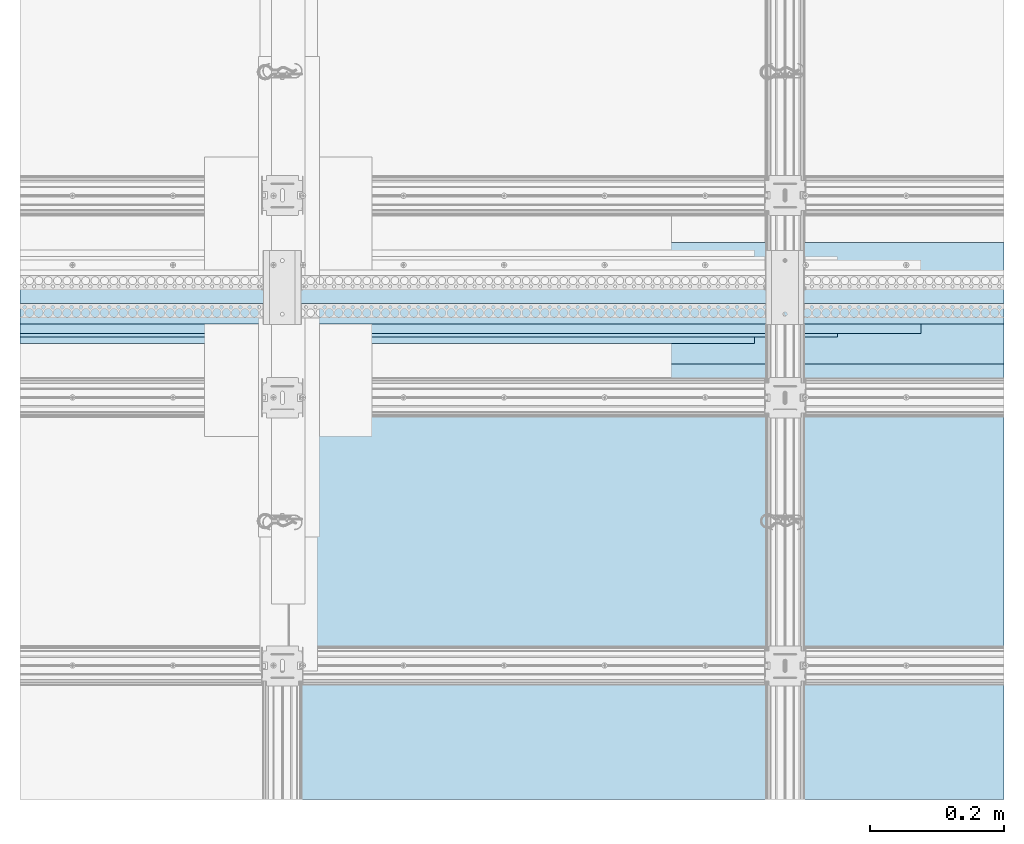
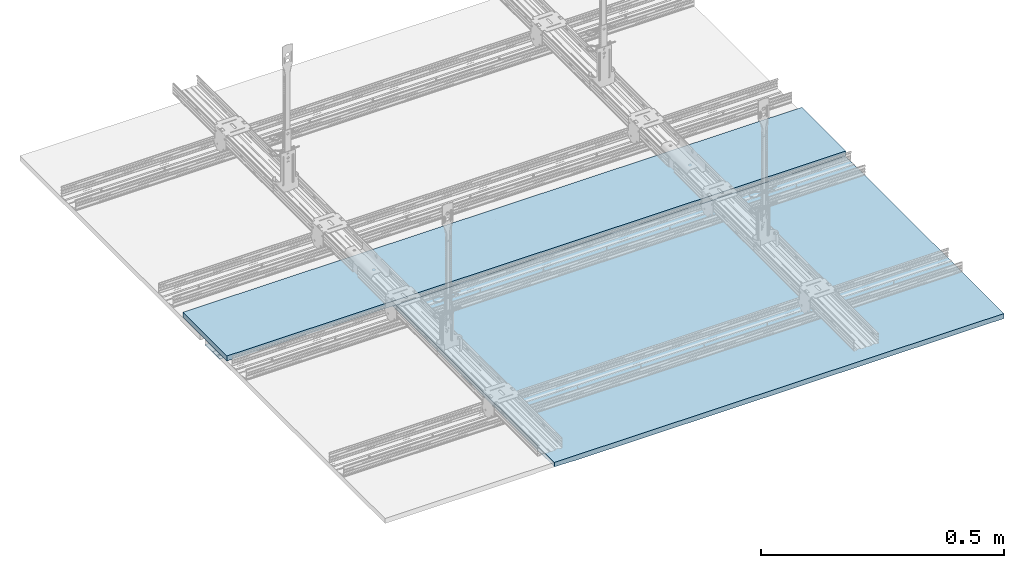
# One storey, part 1 of 56: 6 slabs.
"""IFC2X3 building model written with IfcOpenShell, lengths in millimetres."""

import ifcopenshell
import ifcopenshell.guid

model = None  # the IFC model being written
_history = None  # IfcOwnerHistory: only IFC2X3 demands one
_inside = {}  # id of a spatial element -> (the spatial element, [elements in it])
_under = {}  # id of a project, library or spatial element -> (it, [spatial elements below it])
_declared = {}  # id of a project -> (the project, [libraries it declares])
_typed = {}  # id of a type object -> (the type object, [elements of that type])
_made_of = {}  # id of a material, layer set ... -> (it, [elements and type objects made of it])


def new_model(schema):
    """Start an empty IFC model of exactly this schema.

    Asked for "IFC4X3", IfcOpenShell would pick the latest addendum, in which some entities
    have other attributes; the version numbers below select the first issue.
    IFC2X3 requires an IfcOwnerHistory on every rooted entity: one is made here for all.
    """
    global model, _history
    if schema == "IFC4X3":
        model = ifcopenshell.file(schema_version=(4, 3, 0, 0))
    else:
        model = ifcopenshell.file(schema=schema)
    _inside.clear()
    _under.clear()
    _declared.clear()
    _typed.clear()
    _made_of.clear()
    _history = None
    if model.schema == "IFC2X3":
        org = make("IfcOrganization", Name="unknown")
        user = make(
            "IfcPersonAndOrganization",
            ThePerson=make("IfcPerson", FamilyName="unknown"),
            TheOrganization=org,
        )
        app = make(
            "IfcApplication",
            ApplicationDeveloper=org,
            Version="unknown",
            ApplicationFullName="unknown",
            ApplicationIdentifier="unknown",
        )
        _history = make(
            "IfcOwnerHistory",
            OwningUser=user,
            OwningApplication=app,
            ChangeAction="ADDED",
            CreationDate=0,
        )
    return model


def make(cls, **values):
    """One entity of the class cls with the attributes given. An attribute that is None is left unset."""
    return model.create_entity(
        cls, **{name: value for name, value in values.items() if value is not None}
    )


def entity(cls, *values):
    """Any entity or typed value of the class cls, its attributes in the order of the schema. None: left unset."""
    e = model.create_entity(cls)
    for i, value in enumerate(values):
        if value is not None:
            e[i] = value
    return e


def rooted(cls, **values):
    """An entity with a GlobalId (a new one), such as an element, a storey or a relation."""
    return make(cls, GlobalId=ifcopenshell.guid.new(), OwnerHistory=_history, **values)


def si_unit(unit_type, name, prefix=None):
    """IfcSIUnit, for example si_unit("LENGTHUNIT", "METRE", prefix="MILLI")."""
    return make("IfcSIUnit", UnitType=unit_type, Prefix=prefix, Name=name)


def converted_unit(unit_type, name, factor, base, dimensions=None, offset=None):
    """IfcConversionBasedUnit, such as the inch: factor (a typed value) times the base unit."""
    return make(
        "IfcConversionBasedUnit"
        if offset is None
        else "IfcConversionBasedUnitWithOffset",
        ConversionOffset=offset,
        Dimensions=None
        if dimensions is None
        else entity("IfcDimensionalExponents", *dimensions),
        UnitType=unit_type,
        Name=name,
        ConversionFactor=make(
            "IfcMeasureWithUnit", ValueComponent=factor, UnitComponent=base
        ),
    )


def assignment(units):
    """IfcUnitAssignment: the units of a project."""
    return None if units is None else make("IfcUnitAssignment", Units=units)


def point(xyz):
    """IfcCartesianPoint."""
    return None if xyz is None else make("IfcCartesianPoint", Coordinates=xyz)


def direction(xyz):
    """IfcDirection."""
    return None if xyz is None else make("IfcDirection", DirectionRatios=xyz)


def frame(location, z_axis=None, x_axis=None):
    """IfcAxis2Placement3D, a coordinate frame: its origin and axes. An axis left out is left unset."""
    return make(
        "IfcAxis2Placement3D",
        Location=point(location),
        Axis=direction(z_axis),
        RefDirection=direction(x_axis),
    )


def origin():
    """The frame at (0, 0, 0) with its axes left unset."""
    return frame((0.0, 0.0, 0.0))


def origin_with_axes():
    """The frame at (0, 0, 0) with the z axis (0, 0, 1) and the x axis (1, 0, 0) written out."""
    return frame((0.0, 0.0, 0.0), z_axis=(0.0, 0.0, 1.0), x_axis=(1.0, 0.0, 0.0))


def place(relative_to, where):
    """IfcLocalPlacement: puts the frame where relative to a parent placement (None: the world)."""
    return make(
        "IfcLocalPlacement", PlacementRelTo=relative_to, RelativePlacement=where
    )


def context(
    kind, dimensions, precision=None, world=None, true_north=None, identifier=None
):
    """IfcGeometricRepresentationContext, for example the 3D "Model" context."""
    return make(
        "IfcGeometricRepresentationContext",
        ContextIdentifier=identifier,
        ContextType=kind,
        CoordinateSpaceDimension=dimensions,
        Precision=precision,
        WorldCoordinateSystem=world,
        TrueNorth=true_north,
    )


def project(units=None, contexts=None):
    """IfcProject with its units and contexts."""
    return rooted(
        "IfcProject",
        Name="project",
        RepresentationContexts=contexts,
        UnitsInContext=assignment(units),
    )


def spatial(cls, under=None, at=None, **own):
    """A site, building, storey or space (cls), placed at a placement, below another one or the project."""
    s = rooted(cls, ObjectPlacement=at, **own)
    if under is not None:
        _under.setdefault(under.id(), (under, []))[1].append(s)
    return s


def faces_of(points, faces, orient=None, outer=None):
    """IfcFace entities. A face is a list of loops; a loop is a list of indices into points, from 0.

    orient and outer hold one flag for each loop. By default every Orientation is true, the
    first loop of a face is its IfcFaceOuterBound and the others are IfcFaceBound.
    """
    made = []
    for i, loops in enumerate(faces):
        bounds = []
        for j, loop in enumerate(loops):
            is_outer = j == 0 if outer is None else outer[i][j]
            bounds.append(
                make(
                    "IfcFaceOuterBound" if is_outer else "IfcFaceBound",
                    Bound=make("IfcPolyLoop", Polygon=[points[k] for k in loop]),
                    Orientation=True if orient is None else orient[i][j],
                )
            )
        made.append(make("IfcFace", Bounds=bounds))
    return made


def faceted_brep(points, faces, orient=None, outer=None, voids=None):
    """IfcFacetedBrep: a solid bounded by flat faces; with voids (closed shells), ...WithVoids."""
    shared = [point(p) for p in points]
    hull = make("IfcClosedShell", CfsFaces=faces_of(shared, faces, orient, outer))
    if voids is None:
        return make("IfcFacetedBrep", Outer=hull)
    return make(
        "IfcFacetedBrepWithVoids",
        Outer=hull,
        Voids=[
            make(cls, CfsFaces=faces_of(shared, fs, o, b)) for cls, fs, o, b in voids
        ],
    )


def shape(context_of_items, identifier, shape_type, items):
    """IfcShapeRepresentation: the items that make up one representation, for example the "Body"."""
    return make(
        "IfcShapeRepresentation",
        ContextOfItems=context_of_items,
        RepresentationIdentifier=identifier,
        RepresentationType=shape_type,
        Items=items,
    )


def made_of(thing, what):
    """Note that an element or type object is made of a material, layer set ...; save() writes the relation."""
    if what is not None:
        _made_of.setdefault(what.id(), (what, []))[1].append(thing)
    return thing


def element(
    cls,
    number,
    at=None,
    inside=None,
    cuts=None,
    type_object=None,
    material=None,
    context=None,
    identifier="Body",
    shape_type=None,
    held_by="IfcProductDefinitionShape",
    body=None,
    shapes=None,
    **own,
):
    """One element of the class cls, such as IfcWall. Its Tag is "e" and its number.

    at: its placement. inside: the storey or other place that contains it. cuts: it is an
    opening in that element (IfcRelVoidsElement). A single representation is given by context,
    identifier, shape_type and body (its items); several are given by shapes. held_by: the class
    of the entity that holds the representations. save() writes the other relations.
    """
    e = rooted(cls, Tag="e%d" % number, ObjectPlacement=at, **own)
    if body is not None:
        shapes = [shape(context, identifier, shape_type, body)]
    if shapes is not None:
        e.Representation = make(held_by, Representations=shapes)
    if inside is not None:
        _inside.setdefault(inside.id(), (inside, []))[1].append(e)
    if cuts is not None:
        rooted(
            "IfcRelVoidsElement", RelatingBuildingElement=cuts, RelatedOpeningElement=e
        )
    if type_object is not None:
        _typed.setdefault(type_object.id(), (type_object, []))[1].append(e)
    return made_of(e, material)


def aggregate(whole, parts):
    """IfcRelAggregates: a whole, such as a stair, and the parts it consists of."""
    return rooted("IfcRelAggregates", RelatingObject=whole, RelatedObjects=parts)


def save(model, path):
    """Write the relations noted so far, then the file.

    IfcRelAggregates (storeys below a building ...), IfcRelContainedInSpatialStructure (elements
    in a storey), IfcRelDefinesByType, IfcRelAssociatesMaterial and IfcRelDeclares: one each for
    every whole, place, type object, material and project.
    """
    for whole, parts in _under.values():
        aggregate(whole, parts)
    for where, things in _inside.values():
        rooted(
            "IfcRelContainedInSpatialStructure",
            RelatedElements=things,
            RelatingStructure=where,
        )
    for kind, things in _typed.values():
        rooted("IfcRelDefinesByType", RelatedObjects=things, RelatingType=kind)
    for what, things in _made_of.values():
        rooted("IfcRelAssociatesMaterial", RelatedObjects=things, RelatingMaterial=what)
    for by, libraries in _declared.values():
        rooted("IfcRelDeclares", RelatingContext=by, RelatedDefinitions=libraries)
    model.write(path)


model = new_model("IFC2X3")

# Units and contexts
model_context = context("Model", 3, precision=1e-05, world=origin(), true_north=direction((0.0, 1.0, 0.0)))
ifc_project = project(units=[si_unit("LENGTHUNIT", "METRE", prefix="MILLI"), si_unit("AREAUNIT", "SQUARE_METRE"), si_unit("VOLUMEUNIT", "CUBIC_METRE"), converted_unit("PLANEANGLEUNIT", "DEGREE", entity("IfcPlaneAngleMeasure", 0.01745), si_unit("PLANEANGLEUNIT", "RADIAN"), dimensions=[0, 0, 0, 0, 0, 0, 0]), si_unit("SOLIDANGLEUNIT", "STERADIAN"), si_unit("MASSUNIT", "GRAM"), si_unit("TIMEUNIT", "SECOND"), si_unit("THERMODYNAMICTEMPERATUREUNIT", "DEGREE_CELSIUS"), si_unit("LUMINOUSINTENSITYUNIT", "LUMEN")], contexts=[model_context])

# Site, building, storey
site_placement = place(None, origin_with_axes())
site = spatial("IfcSite", under=ifc_project, at=site_placement, Name="Default Site", CompositionType="ELEMENT")
building_placement = place(site_placement, origin_with_axes())
building = spatial("IfcBuilding", under=site, at=building_placement, Name="Default Building", CompositionType="ELEMENT")
storey_placement = place(building_placement, origin_with_axes())
storey = spatial("IfcBuildingStorey", under=building, at=storey_placement, Name="Default Building Storey", CompositionType="ELEMENT", Elevation=0.0)

# Slabs
slab_1_placement = place(storey_placement, frame((3326.808963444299, 1577.585698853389, 981.2852175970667), z_axis=(0.0, -1.0, 3.330669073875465e-16), x_axis=(1.0, 0.0, 0.0)))
element("IfcSlab", 1, at=slab_1_placement, inside=storey, Name="Płyta gipsowo-kartonowa RIGIPS PRO (4PRO™)", context=model_context, shape_type="Brep", body=[
    faceted_brep([(266.2316547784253, 26.00000000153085, -71.37825829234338), (266.2316547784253, 13.50000000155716, -71.37825829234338), (-1201.783829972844, 13.50000000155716, -71.37825829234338), (-1201.783829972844, 26.00000000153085, -71.37825829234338), (266.2316547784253, 13.50000000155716, 109.5498612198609), (-1201.783829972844, 13.50000000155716, 109.5498612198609), (266.2316547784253, 26.00000000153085, 109.5498612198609), (-1201.783829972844, 26.00000000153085, 109.5498612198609)], [[[0, 1, 2, 3]], [[1, 4, 5, 2]], [[4, 6, 7, 5]], [[6, 0, 3, 7]], [[7, 3, 2, 5]], [[0, 6, 4, 1]]]),
])
slab_2_placement = place(storey_placement, frame((2526.439347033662, 390.2088794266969, 993.7852175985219), z_axis=(-3.36311631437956e-44, -1.0, 3.330669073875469e-16), x_axis=(1.0, -2.12807555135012e-28, -6.389333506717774e-13)))
element("IfcSlab", 2, at=slab_2_placement, inside=storey, Name="Płyta gipsowo-kartonowa RIGIPS PRO (4PRO™)", context=model_context, shape_type="Brep", body=[
    faceted_brep([(1066.601271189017, 7.47539274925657e-10, -428.1320433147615), (1066.601271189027, -12.49999999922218, -428.1320433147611), (44.99999999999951, -12.50000000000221, -428.1320433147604), (41.00000000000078, -11.5000000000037, -428.1320433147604), (0.9999999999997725, -11.5000000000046, -428.1320433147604), (0.741180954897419, -11.46592582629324, -428.1320433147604), (0.4999999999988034, -11.36602540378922, -428.1320433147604), (0.2928932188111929, -11.20710678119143, -428.1320433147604), (0.1339745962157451, -11.00000000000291, -428.1320433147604), (0.03407417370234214, -10.75881904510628, -428.1320433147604), (-3.97051280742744e-12, -10.50000000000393, -428.1320433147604), (1.082867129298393e-12, -5.414335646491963e-13, -428.1320433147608), (1066.601271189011, -12.49999999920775, -1167.762426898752), (44.99999999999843, -12.49999999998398, -1167.762426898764), (1066.601271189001, 7.645041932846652e-10, -1167.762426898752), (40.9999999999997, -11.49999999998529, -1167.762426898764), (0.9999999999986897, -11.49999999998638, -1167.762426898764), (0.7411809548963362, -11.46592582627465, -1167.762426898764), (0.4999999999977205, -11.36602540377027, -1167.762426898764), (0.29289321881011, -11.20710678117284, -1167.762426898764), (0.1339745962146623, -10.99999999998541, -1167.762426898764), (0.03407417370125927, -10.75881904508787, -1167.762426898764), (-5.053379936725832e-12, -10.49999999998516, -1167.762426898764), (0.0, 1.822826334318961e-11, -1167.762426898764)], [[[0, 1, 2, 3, 4, 5, 6, 7, 8, 9, 10, 11]], [[1, 12, 13, 2]], [[0, 14, 12, 1]], [[2, 13, 15, 3]], [[3, 15, 16, 4]], [[4, 16, 17, 5]], [[5, 17, 18, 6]], [[6, 18, 19, 7]], [[7, 19, 20, 8]], [[8, 20, 21, 9]], [[9, 21, 22, 10]], [[10, 22, 23, 11]], [[0, 11, 23, 14]], [[13, 12, 14, 23, 22, 21, 20, 19, 18, 17, 16, 15]]]),
])
slab_3_placement = place(storey_placement, frame((2969.960539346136, 2270.730522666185, 4101.553135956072), z_axis=(1.0, 9.963675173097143e-14, -2.65740110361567e-12), x_axis=(-1.533495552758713e-13, 1.0, 2.78446504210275e-12)))
element("IfcSlab", 3, at=slab_3_placement, inside=storey, Name="Taśma spoinowa RIGIPS", context=model_context, shape_type="Brep", body=[
    faceted_brep([(-712.4592163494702, -3120.63617230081, 374.8940238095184), (-712.4592163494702, -3120.820299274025, 374.8940238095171), (-762.45921634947, -3120.820299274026, 374.8940238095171), (-762.45921634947, -3120.636172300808, 374.8940238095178), (-712.4592163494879, -3120.820299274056, -844.9354058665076), (-712.4592163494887, -3120.636172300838, -844.9354058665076), (-762.4592163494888, -3120.636172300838, -844.9354058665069), (-762.4592163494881, -3120.820299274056, -844.9354058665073)], [[[0, 1, 2, 3]], [[4, 5, 6, 7]], [[5, 0, 3, 6]], [[6, 3, 2, 7]], [[7, 2, 1, 4]], [[4, 1, 0, 5]]]),
])
slab_4_placement = place(storey_placement, frame((2865.999492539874, 2270.730522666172, 4101.737262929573), z_axis=(1.0, 9.987871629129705e-14, -2.657623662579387e-12), x_axis=(-1.533495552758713e-13, 1.0, 2.78446504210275e-12)))
element("IfcSlab", 4, at=slab_4_placement, inside=storey, Name="Dedykowana masa szpachlowa Rigips - konstrukcyjna", context=model_context, shape_type="Brep", body=[
    faceted_brep([(-742.4592163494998, -3120.544108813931, -740.9743590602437), (-742.4592163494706, -3120.544108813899, 602.9480981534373), (-742.4592163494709, -3120.359981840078, 602.9480981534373), (-742.4592163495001, -3120.359981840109, -740.9743590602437), (-757.4592163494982, -3120.359981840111, -740.9743590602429), (-757.4592163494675, -3120.359981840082, 602.9480981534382), (-712.4592163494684, -3120.544108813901, 602.9480981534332), (-712.4592163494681, -3120.820299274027, 602.9480981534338), (-757.4592163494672, -3120.820299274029, 602.9480981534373), (-712.4592163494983, -3120.820299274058, -740.9743590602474), (-712.4592163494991, -3120.54410881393, -740.9743590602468), (-757.4592163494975, -3120.820299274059, -740.9743590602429)], [[[0, 1, 2, 3]], [[4, 3, 2, 5]], [[6, 7, 8, 5, 2, 1]], [[9, 10, 0, 3, 4, 11]], [[6, 1, 0, 10]], [[11, 4, 5, 8]], [[11, 8, 7, 9]], [[9, 7, 6, 10]]]),
])
slab_5_placement = place(storey_placement, frame((2906.719840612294, 2270.73052266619, 4101.369008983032), z_axis=(1.0, 9.982569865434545e-14, -2.658095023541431e-12), x_axis=(-1.533495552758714e-13, 1.0, 2.784465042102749e-12)))
element("IfcSlab", 5, at=slab_5_placement, inside=storey, Name="Dedykowana masa szpachlowa Rigips - konstrukcyjna", context=model_context, shape_type="Brep", body=[
    faceted_brep([(-762.4592163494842, -3120.636172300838, -781.6947071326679), (-762.4592163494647, -3120.636172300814, 314.0416950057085), (-762.4592163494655, -3119.991727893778, 314.0416950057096), (-762.4592163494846, -3119.991727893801, -781.6947071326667), (-772.4592163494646, -3119.991727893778, 314.0416950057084), (-772.4592163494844, -3119.991727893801, -781.6947071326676), (-712.4592163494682, -3120.636172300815, 314.0416950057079), (-712.4592163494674, -3120.820299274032, 314.0416950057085), (-772.4592163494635, -3120.820299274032, 314.0416950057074), (-712.4592163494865, -3120.820299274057, -781.6947071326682), (-712.4592163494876, -3120.636172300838, -781.6947071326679), (-772.459216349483, -3120.820299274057, -781.6947071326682)], [[[0, 1, 2, 3]], [[2, 4, 5, 3]], [[6, 7, 8, 4, 2, 1]], [[9, 10, 0, 3, 5, 11]], [[0, 10, 6, 1]], [[4, 8, 11, 5]], [[11, 8, 7, 9]], [[9, 7, 6, 10]]]),
])
slab_6_placement = place(storey_placement, frame((3468.947590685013, 1507.971306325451, 981.1010906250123), z_axis=(1.935951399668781e-15, 1.0, 2.785103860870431e-12), x_axis=(1.0, -9.394034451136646e-16, -2.737324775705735e-12)))
element("IfcSlab", 6, at=slab_6_placement, inside=storey, Name="Dedykowana masa szpachlowa Rigips - konstrukcyjna", context=model_context, shape_type="Brep", body=[
    faceted_brep([(124.0930275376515, 0.0, 19.99999999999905), (-1343.922457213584, 1.262771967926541e-11, 19.99999999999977), (-1343.922457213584, -0.1841269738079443, 20.00000000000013), (124.093027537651, -0.1841269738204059, 19.99999999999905), (124.0930275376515, 1.661542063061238e-13, 49.99999999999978), (124.093027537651, -0.1841269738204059, 49.99999999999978), (-1343.922457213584, 1.262771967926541e-11, 50.0000000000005), (-1343.922457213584, -0.1841269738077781, 50.00000000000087)], [[[0, 1, 2, 3]], [[4, 0, 3, 5]], [[6, 4, 5, 7]], [[1, 6, 7, 2]], [[2, 7, 5, 3]], [[6, 1, 0, 4]]]),
])

save(model, "model.ifc")
